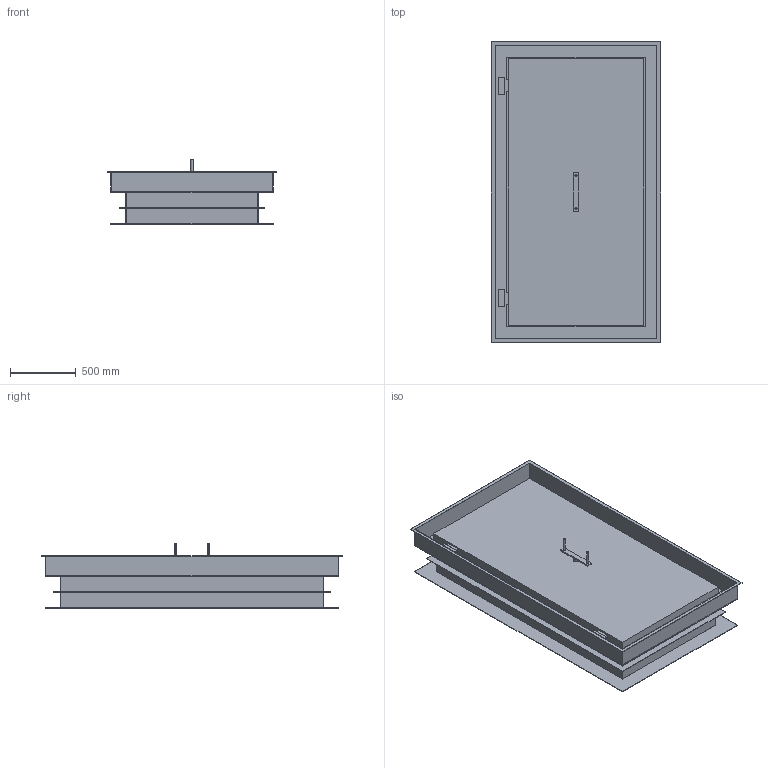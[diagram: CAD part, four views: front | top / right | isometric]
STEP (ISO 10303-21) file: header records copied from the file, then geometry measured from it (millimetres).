
FILE_DESCRIPTION((''),'2;1');
FILE_NAME('52317641','2024-11-13T13:11:27',('ka'),('HUBER SE'),'CREO PARAMETRIC BY PTC INC, 2022162','CREO PARAMETRIC BY PTC INC, 2022162','');
FILE_SCHEMA(('AUTOMOTIVE_DESIGN { 1 0 10303 214 1 1 1 1 }'));
Length unit declared in the file: millimetre
Products named in the file (1): 52317641
Bounding box: 1290 x 2290 x 495 mm (x, y, z)
Volume: 210129903.3 mm3; surface area: 14098381.1 mm2
Topology: 1 solids, 1 shells, 99 faces, 232 edges, 152 vertices
Faces by surface type: plane 87, cylinder 12
Entity records: 3698 total; most frequent: CARTESIAN_POINT 485, ORIENTED_EDGE 464, DIRECTION 454, EDGE_CURVE 232, VECTOR 208, LINE 208, VERTEX_POINT 152, AXIS2_PLACEMENT_3D 123
